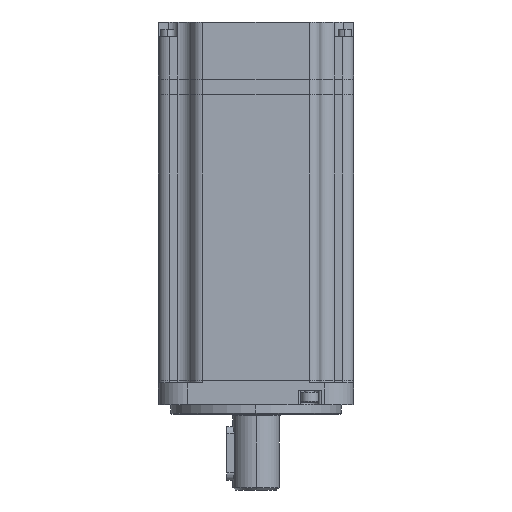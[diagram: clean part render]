
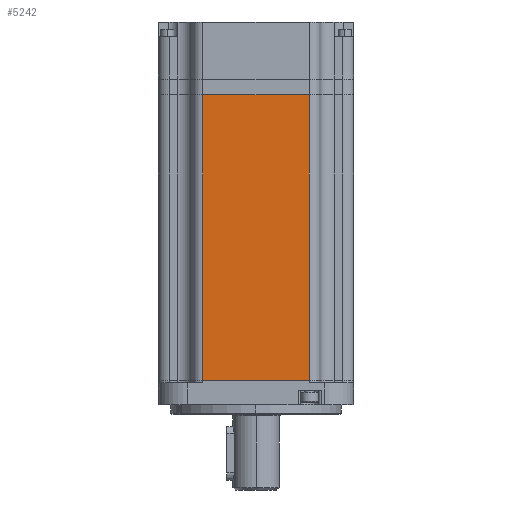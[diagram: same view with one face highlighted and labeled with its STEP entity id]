
A CAD part, left-side view. The second image highlights one B-rep face of the part: STEP entity #5242.
In plain terms, the highlighted planar face has unit normal (-1, 0, 0).
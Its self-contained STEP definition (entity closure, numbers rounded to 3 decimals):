
#1562 = LINE ( 'NONE', #12999, #26849 ) ;
#2616 = CARTESIAN_POINT ( 'NONE',  ( -39.205, 25.902, 10. ) ) ;
#3193 = DIRECTION ( 'NONE',  ( 0., -1., 0. ) ) ;
#3800 = VERTEX_POINT ( 'NONE', #34253 ) ;
#4331 = VERTEX_POINT ( 'NONE', #26483 ) ;
#5242 = ADVANCED_FACE ( 'NONE', ( #31043 ), #37347, .F. ) ;
#7078 = EDGE_LOOP ( 'NONE', ( #24486, #12711, #37181, #25866 ) ) ;
#9917 = EDGE_CURVE ( 'NONE', #30151, #4331, #33805, .T. ) ;
#10167 = EDGE_CURVE ( 'NONE', #3800, #30151, #22409, .T. ) ;
#12711 = ORIENTED_EDGE ( 'NONE', *, *, #10167, .T. ) ;
#12999 = CARTESIAN_POINT ( 'NONE',  ( -39.205, 25.902, 127.1 ) ) ;
#14372 = AXIS2_PLACEMENT_3D ( 'NONE', #35533, #35480, #35258 ) ;
#15431 = VECTOR ( 'NONE', #37804, 1000. ) ;
#15821 = CARTESIAN_POINT ( 'NONE',  ( -39.205, -22.098, 127.1 ) ) ;
#17191 = CARTESIAN_POINT ( 'NONE',  ( -39.205, 21.402, 10. ) ) ;
#17826 = DIRECTION ( 'NONE',  ( 0., 0., -1. ) ) ;
#18690 = CARTESIAN_POINT ( 'NONE',  ( -39.205, 21.402, 127.1 ) ) ;
#20445 = CARTESIAN_POINT ( 'NONE',  ( -39.205, -22.098, 127.1 ) ) ;
#21412 = VECTOR ( 'NONE', #17826, 1000. ) ;
#22409 = LINE ( 'NONE', #18690, #21412 ) ;
#24486 = ORIENTED_EDGE ( 'NONE', *, *, #35854, .F. ) ;
#25027 = VECTOR ( 'NONE', #3193, 1000. ) ;
#25866 = ORIENTED_EDGE ( 'NONE', *, *, #26308, .T. ) ;
#26308 = EDGE_CURVE ( 'NONE', #4331, #32176, #41765, .T. ) ;
#26483 = CARTESIAN_POINT ( 'NONE',  ( -39.205, -22.098, 10. ) ) ;
#26849 = VECTOR ( 'NONE', #36227, 1000. ) ;
#30151 = VERTEX_POINT ( 'NONE', #17191 ) ;
#31043 = FACE_OUTER_BOUND ( 'NONE', #7078, .T. ) ;
#32176 = VERTEX_POINT ( 'NONE', #15821 ) ;
#33805 = LINE ( 'NONE', #2616, #25027 ) ;
#34253 = CARTESIAN_POINT ( 'NONE',  ( -39.205, 21.402, 127.1 ) ) ;
#35258 = DIRECTION ( 'NONE',  ( 0., 0., 1. ) ) ;
#35480 = DIRECTION ( 'NONE',  ( 1., 0., 0. ) ) ;
#35533 = CARTESIAN_POINT ( 'NONE',  ( -39.205, 25.902, 127.1 ) ) ;
#35854 = EDGE_CURVE ( 'NONE', #3800, #32176, #1562, .T. ) ;
#36227 = DIRECTION ( 'NONE',  ( 0., -1., 0. ) ) ;
#37181 = ORIENTED_EDGE ( 'NONE', *, *, #9917, .T. ) ;
#37347 = PLANE ( 'NONE',  #14372 ) ;
#37804 = DIRECTION ( 'NONE',  ( 0., 0., 1. ) ) ;
#41765 = LINE ( 'NONE', #20445, #15431 ) ;
